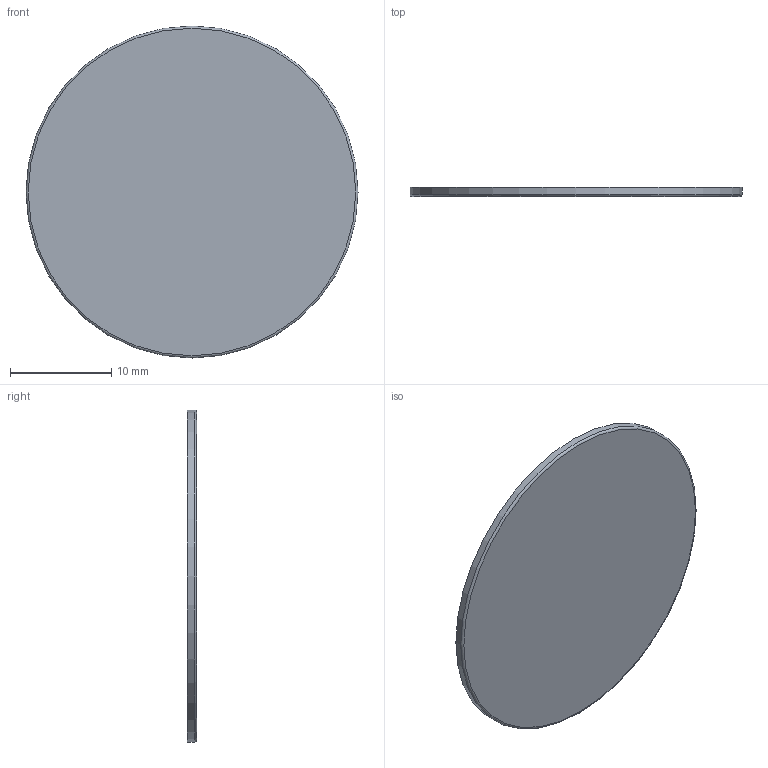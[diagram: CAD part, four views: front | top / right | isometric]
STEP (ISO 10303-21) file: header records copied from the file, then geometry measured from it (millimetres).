
FILE_DESCRIPTION(('Open CASCADE Model'),'2;1');
FILE_NAME('tactile-contact-surface.step','2026-11-14T20:07:09',('Author' ),('Open CASCADE'),'Open CASCADE STEP processor 8.0', 'Open CASCADE 8.0','Unknown');
FILE_SCHEMA(('AP242_MANAGED_MODEL_BASED_3D_ENGINEERING_MIM_LF {1 0 10303 442 1 1 4 }' ));
Length unit declared in the file: millimetre
Products named in the file (1): Tactile Contact Surface
Bounding box: 32.84 x 0.9 x 32.84 mm (x, y, z)
Volume: 761.3 mm3; surface area: 1777.1 mm2
Topology: 1 solids, 1 shells, 4 faces, 5 edges, 3 vertices
Faces by surface type: plane 2, cylinder 1, torus 1
Full cylindrical faces by diameter (mm): 32.84 x1
Entity records: 167 total; most frequent: DIRECTION 27, CARTESIAN_POINT 25, ORIENTED_EDGE 10, PCURVE 10, DEFINITIONAL_REPRESENTATION 10, AXIS2_PLACEMENT_3D 9, LINE 7, VECTOR 7
